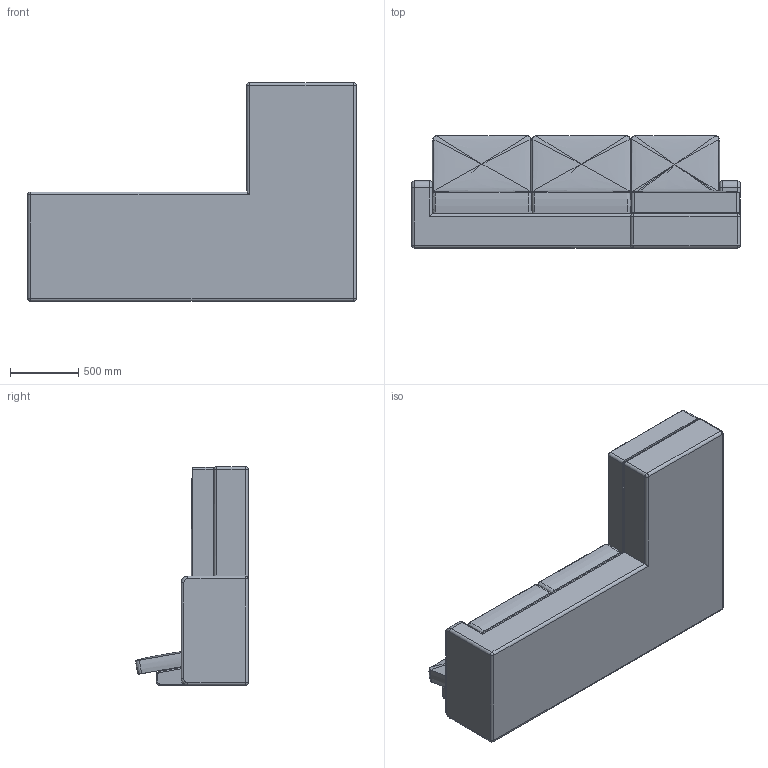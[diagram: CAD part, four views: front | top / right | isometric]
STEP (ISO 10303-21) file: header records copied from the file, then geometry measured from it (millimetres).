
FILE_DESCRIPTION(/* description */ (''),/* implementation_level */ '2;1');
FILE_NAME(/* name */ 'D:\100-HP用\家具\ソファー\sofa15.stp',/* time_stamp */ '2022-06-22T17:16:51+09:00',/* author */ ('D'),/* organization */ (''),/* preprocessor_version */ 'ST-DEVELOPER v18',/* originating_system */ 'Autodesk Inventor 2020',/* authorisation */ '');
FILE_SCHEMA (('AUTOMOTIVE_DESIGN { 1 0 10303 214 3 1 1 }'));
Length unit declared in the file: millimetre
Products named in the file (1): カウチ
Bounding box: 2400 x 820 x 1600 mm (x, y, z)
Volume: 1214179111.7 mm3; surface area: 17311385.5 mm2
Topology: 4 solids, 4 shells, 200 faces, 508 edges, 264 vertices
Faces by surface type: bspline 73, cylinder 61, plane 47, torus 12, sphere 7
Entity records: 6889 total; most frequent: CARTESIAN_POINT 2641, ORIENTED_EDGE 940, DIRECTION 775, EDGE_CURVE 470, AXIS2_PLACEMENT_3D 297, VERTEX_POINT 271, EDGE_LOOP 201, FACE_OUTER_BOUND 200
